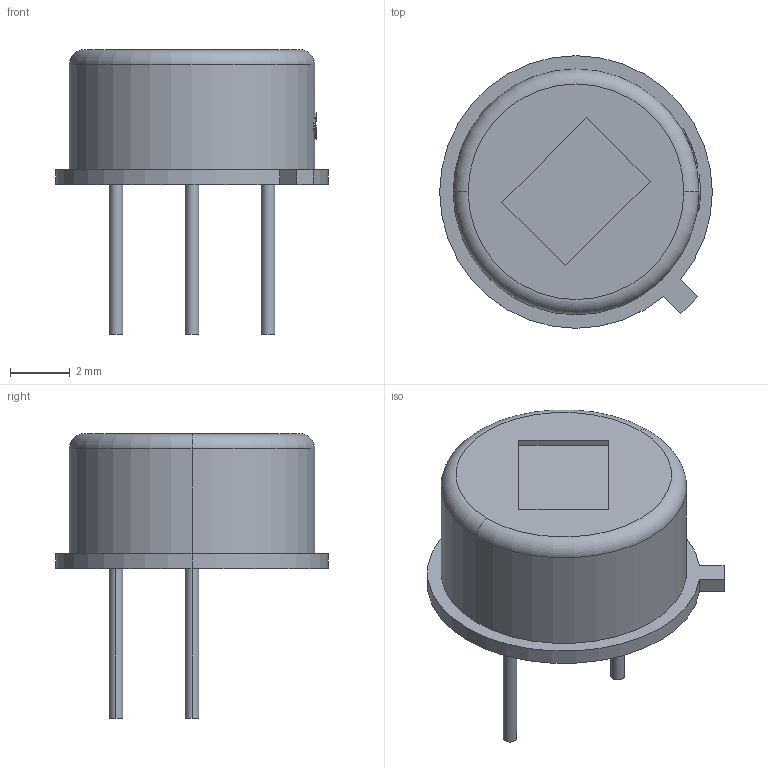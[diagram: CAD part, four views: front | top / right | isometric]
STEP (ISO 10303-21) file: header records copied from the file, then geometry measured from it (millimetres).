
FILE_DESCRIPTION (( 'STEP AP214' ), '1' );
FILE_NAME ('OPTO-TH_RD624.step', '2022-07-05T14:09:57', ( '' ), ( '' ), 'SwSTEP 2.0', 'SolidWorks 2020', '' );
FILE_SCHEMA (( 'AUTOMOTIVE_DESIGN' ));
Length unit declared in the file: millimetre
Products named in the file (1): OPTO-TH_RD624
Bounding box: 9.1 x 9.1 x 9.5 mm (x, y, z)
Volume: 242.6 mm3; surface area: 274.1 mm2
Topology: 1 solids, 1 shells, 319 faces, 850 edges, 566 vertices
Faces by surface type: plane 145, bspline 135, cylinder 37, torus 2
Entity records: 14949 total; most frequent: CARTESIAN_POINT 4584, ORIENTED_EDGE 1700, DIRECTION 931, EDGE_CURVE 850, VERTEX_POINT 566, B_SPLINE_CURVE_WITH_KNOTS 423, EDGE_LOOP 352, FACE_OUTER_BOUND 319
